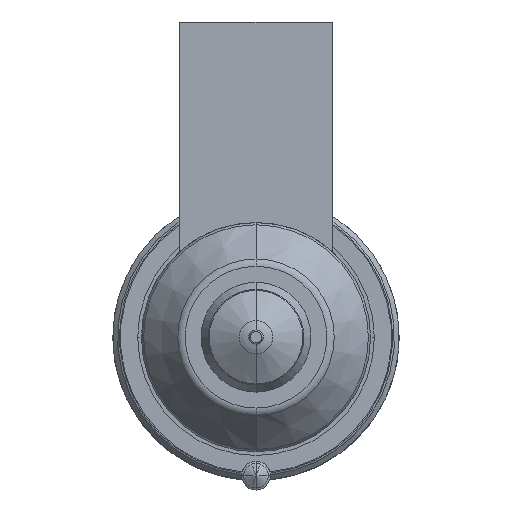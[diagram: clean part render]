
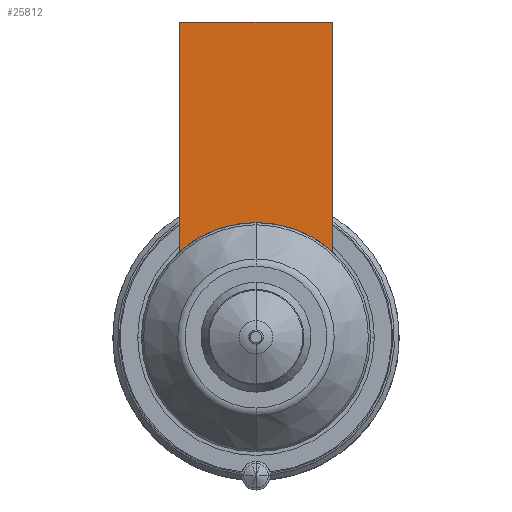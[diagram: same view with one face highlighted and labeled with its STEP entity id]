
A CAD part, front view. The second image highlights one B-rep face of the part: STEP entity #25812.
In plain terms, the highlighted planar face has unit normal (0, -1, 0).
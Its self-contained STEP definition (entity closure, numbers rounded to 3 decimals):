
#24894=DIRECTION('',(0.,0.,-1.));
#24895=VECTOR('',#24894,24.056);
#24896=CARTESIAN_POINT('',(-8.,-56.,33.));
#24897=LINE('',#24896,#24895);
#24934=DIRECTION('',(1.,0.,0.));
#24935=VECTOR('',#24934,16.);
#24936=CARTESIAN_POINT('',(-8.,-56.,33.));
#24937=LINE('',#24936,#24935);
#24941=CARTESIAN_POINT('',(0.,-56.,0.));
#24942=DIRECTION('',(0.,-1.,0.));
#24943=DIRECTION('',(0.667,0.,0.745));
#24944=AXIS2_PLACEMENT_3D('',#24941,#24942,#24943);
#24949=CARTESIAN_POINT('',(0.,-56.,0.));
#24950=DIRECTION('',(0.,-1.,0.));
#24951=DIRECTION('',(0.,0.,1.));
#24952=AXIS2_PLACEMENT_3D('',#24949,#24950,#24951);
#24985=DIRECTION('',(0.,0.,-1.));
#24986=VECTOR('',#24985,24.056);
#24987=CARTESIAN_POINT('',(8.,-56.,33.));
#24988=LINE('',#24987,#24986);
#25648=CARTESIAN_POINT('',(-8.,-56.,33.));
#25649=VERTEX_POINT('',#25648);
#25654=CARTESIAN_POINT('',(8.,-56.,33.));
#25655=VERTEX_POINT('',#25654);
#25658=CARTESIAN_POINT('',(-8.,-56.,8.944));
#25659=VERTEX_POINT('',#25658);
#25662=CARTESIAN_POINT('',(8.,-56.,8.944));
#25663=VERTEX_POINT('',#25662);
#25731=CARTESIAN_POINT('',(0.,-56.,12.));
#25732=VERTEX_POINT('',#25731);
#25797=CARTESIAN_POINT('',(-8.,-56.,33.));
#25798=DIRECTION('',(0.,-1.,0.));
#25799=DIRECTION('',(0.,0.,-1.));
#25800=AXIS2_PLACEMENT_3D('',#25797,#25798,#25799);
#25801=PLANE('',#25800);
#25802=ORIENTED_EDGE('',*,*,#25745,.F.);
#25804=ORIENTED_EDGE('',*,*,#25803,.T.);
#25806=ORIENTED_EDGE('',*,*,#25805,.T.);
#25808=ORIENTED_EDGE('',*,*,#25807,.T.);
#25809=ORIENTED_EDGE('',*,*,#25777,.T.);
#25810=EDGE_LOOP('',(#25802,#25804,#25806,#25808,#25809));
#25811=FACE_OUTER_BOUND('',#25810,.F.);
#25812=ADVANCED_FACE('',(#25811),#25801,.T.);
#24945=CIRCLE('',#24944,12.);
#24953=CIRCLE('',#24952,12.);
#25745=EDGE_CURVE('',#25649,#25659,#24897,.T.);
#25777=EDGE_CURVE('',#25732,#25659,#24953,.T.);
#25803=EDGE_CURVE('',#25649,#25655,#24937,.T.);
#25805=EDGE_CURVE('',#25655,#25663,#24988,.T.);
#25807=EDGE_CURVE('',#25663,#25732,#24945,.T.);
